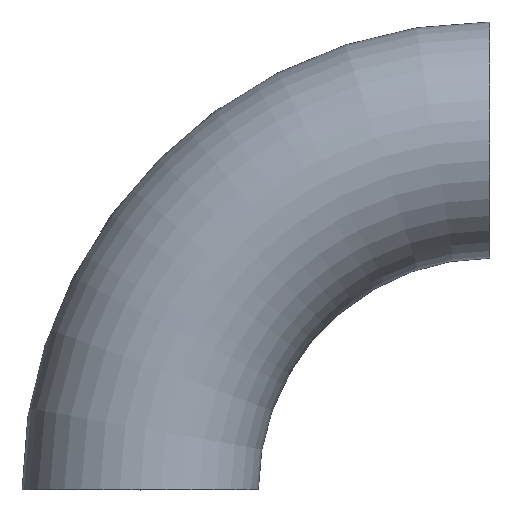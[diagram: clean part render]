
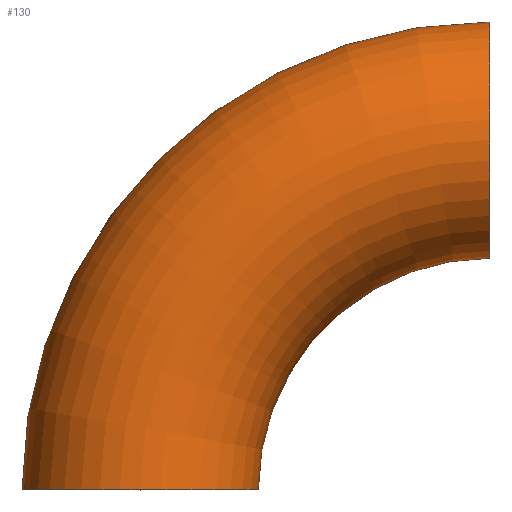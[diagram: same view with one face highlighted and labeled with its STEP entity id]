
A CAD part, top view. The second image highlights one B-rep face of the part: STEP entity #130.
In plain terms, the highlighted toroidal (fillet/blend) face has major radius 450 mm and minor radius 152 mm.
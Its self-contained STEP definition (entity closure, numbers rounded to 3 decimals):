
#7 = CARTESIAN_POINT ( 'NONE',  ( 450., 602., 0. ) ) ;
#26 = AXIS2_PLACEMENT_3D ( 'NONE', #77, #59, #119 ) ;
#29 = VERTEX_POINT ( 'NONE', #39 ) ;
#35 = VERTEX_POINT ( 'NONE', #177 ) ;
#37 = ORIENTED_EDGE ( 'NONE', *, *, #51, .T. ) ;
#39 = CARTESIAN_POINT ( 'NONE',  ( -152., 0., 0. ) ) ;
#40 = CIRCLE ( 'NONE', #193, 152. ) ;
#51 = EDGE_CURVE ( 'NONE', #210, #29, #65, .T. ) ;
#59 = DIRECTION ( 'NONE',  ( 0., 0., 1. ) ) ;
#63 = DIRECTION ( 'NONE',  ( 1., 0., 0. ) ) ;
#65 = CIRCLE ( 'NONE', #26, 602. ) ;
#77 = CARTESIAN_POINT ( 'NONE',  ( 450., 0., 0. ) ) ;
#79 = DIRECTION ( 'NONE',  ( 0., 0., 1. ) ) ;
#81 = DIRECTION ( 'NONE',  ( 1., 0., 0. ) ) ;
#92 = EDGE_LOOP ( 'NONE', ( #122, #37, #125, #222 ) ) ;
#94 = EDGE_CURVE ( 'NONE', #173, #35, #253, .T. ) ;
#96 = FACE_OUTER_BOUND ( 'NONE', #92, .T. ) ;
#101 = DIRECTION ( 'NONE',  ( 0., 0., 1. ) ) ;
#116 = EDGE_CURVE ( 'NONE', #210, #173, #207, .T. ) ;
#119 = DIRECTION ( 'NONE',  ( 1., 0., 0. ) ) ;
#121 = DIRECTION ( 'NONE',  ( 0., 0., 1. ) ) ;
#122 = ORIENTED_EDGE ( 'NONE', *, *, #116, .F. ) ;
#125 = ORIENTED_EDGE ( 'NONE', *, *, #226, .T. ) ;
#130 = ADVANCED_FACE ( 'NONE', ( #96 ), #201, .T. ) ;
#138 = AXIS2_PLACEMENT_3D ( 'NONE', #238, #163, #81 ) ;
#156 = AXIS2_PLACEMENT_3D ( 'NONE', #219, #223, #79 ) ;
#163 = DIRECTION ( 'NONE',  ( 0., 0., 1. ) ) ;
#173 = VERTEX_POINT ( 'NONE', #215 ) ;
#177 = CARTESIAN_POINT ( 'NONE',  ( 152., 0., 0. ) ) ;
#181 = CARTESIAN_POINT ( 'NONE',  ( 0., 0., 0. ) ) ;
#183 = CARTESIAN_POINT ( 'NONE',  ( 450., 0., 0. ) ) ;
#188 = AXIS2_PLACEMENT_3D ( 'NONE', #183, #121, #63 ) ;
#193 = AXIS2_PLACEMENT_3D ( 'NONE', #181, #200, #101 ) ;
#200 = DIRECTION ( 'NONE',  ( 0., 1., 0. ) ) ;
#201 = TOROIDAL_SURFACE ( 'NONE', #138, 450., 152. ) ;
#207 = CIRCLE ( 'NONE', #156, 152. ) ;
#210 = VERTEX_POINT ( 'NONE', #7 ) ;
#215 = CARTESIAN_POINT ( 'NONE',  ( 450., 298., 0. ) ) ;
#219 = CARTESIAN_POINT ( 'NONE',  ( 450., 450., 0. ) ) ;
#222 = ORIENTED_EDGE ( 'NONE', *, *, #94, .F. ) ;
#223 = DIRECTION ( 'NONE',  ( 1., 0., 0. ) ) ;
#226 = EDGE_CURVE ( 'NONE', #29, #35, #40, .T. ) ;
#238 = CARTESIAN_POINT ( 'NONE',  ( 450., 0., 0. ) ) ;
#253 = CIRCLE ( 'NONE', #188, 298. ) ;
